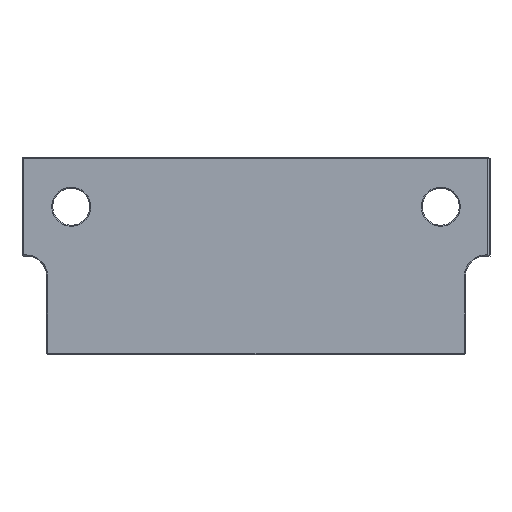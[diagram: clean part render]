
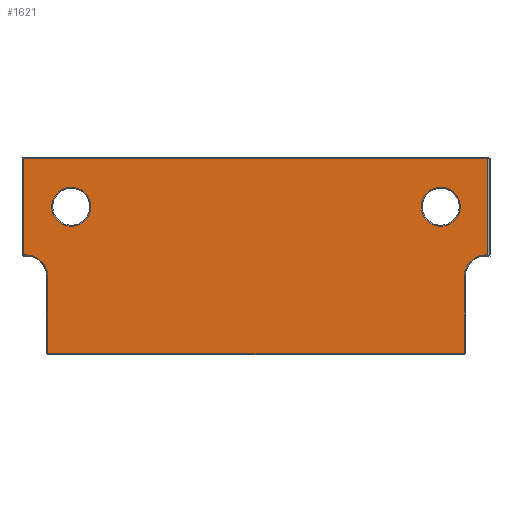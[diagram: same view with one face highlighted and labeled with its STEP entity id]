
A CAD part, front view. The second image highlights one B-rep face of the part: STEP entity #1621.
In plain terms, the highlighted planar face has unit normal (0, -1, 0).
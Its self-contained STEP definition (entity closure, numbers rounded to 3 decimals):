
#28=FACE_BOUND('',#241,.T.);
#29=FACE_BOUND('',#242,.T.);
#34=PLANE('',#1803);
#129=FACE_OUTER_BOUND('',#240,.T.);
#240=EDGE_LOOP('',(#1237,#1238,#1239,#1240,#1241,#1242,#1243,#1244,#1245,
#1246));
#241=EDGE_LOOP('',(#1247));
#242=EDGE_LOOP('',(#1248));
#366=CIRCLE('',#1800,4.75);
#369=CIRCLE('',#1804,5.25);
#370=CIRCLE('',#1805,5.25);
#371=CIRCLE('',#1806,4.75);
#439=LINE('',#2625,#589);
#440=LINE('',#2627,#590);
#441=LINE('',#2629,#591);
#442=LINE('',#2631,#592);
#443=LINE('',#2635,#593);
#444=LINE('',#2637,#594);
#445=LINE('',#2639,#595);
#446=LINE('',#2642,#596);
#589=VECTOR('',#2126,10.);
#590=VECTOR('',#2127,10.);
#591=VECTOR('',#2128,10.);
#592=VECTOR('',#2129,10.);
#593=VECTOR('',#2132,10.);
#594=VECTOR('',#2133,10.);
#595=VECTOR('',#2134,10.);
#596=VECTOR('',#2137,10.);
#757=VERTEX_POINT('',#2615);
#760=VERTEX_POINT('',#2623);
#761=VERTEX_POINT('',#2624);
#762=VERTEX_POINT('',#2626);
#763=VERTEX_POINT('',#2628);
#764=VERTEX_POINT('',#2630);
#765=VERTEX_POINT('',#2632);
#766=VERTEX_POINT('',#2634);
#767=VERTEX_POINT('',#2636);
#768=VERTEX_POINT('',#2638);
#769=VERTEX_POINT('',#2640);
#770=VERTEX_POINT('',#2643);
#928=EDGE_CURVE('',#757,#757,#366,.T.);
#932=EDGE_CURVE('',#760,#761,#439,.T.);
#933=EDGE_CURVE('',#762,#760,#440,.T.);
#934=EDGE_CURVE('',#763,#762,#441,.T.);
#935=EDGE_CURVE('',#764,#763,#442,.T.);
#936=EDGE_CURVE('',#765,#764,#369,.T.);
#937=EDGE_CURVE('',#766,#765,#443,.T.);
#938=EDGE_CURVE('',#767,#766,#444,.T.);
#939=EDGE_CURVE('',#768,#767,#445,.T.);
#940=EDGE_CURVE('',#769,#768,#370,.T.);
#941=EDGE_CURVE('',#761,#769,#446,.T.);
#942=EDGE_CURVE('',#770,#770,#371,.T.);
#1237=ORIENTED_EDGE('',*,*,#932,.F.);
#1238=ORIENTED_EDGE('',*,*,#933,.F.);
#1239=ORIENTED_EDGE('',*,*,#934,.F.);
#1240=ORIENTED_EDGE('',*,*,#935,.F.);
#1241=ORIENTED_EDGE('',*,*,#936,.F.);
#1242=ORIENTED_EDGE('',*,*,#937,.F.);
#1243=ORIENTED_EDGE('',*,*,#938,.F.);
#1244=ORIENTED_EDGE('',*,*,#939,.F.);
#1245=ORIENTED_EDGE('',*,*,#940,.F.);
#1246=ORIENTED_EDGE('',*,*,#941,.F.);
#1247=ORIENTED_EDGE('',*,*,#942,.F.);
#1248=ORIENTED_EDGE('',*,*,#928,.F.);
#1621=ADVANCED_FACE('',(#129,#28,#29),#34,.T.);
#1800=AXIS2_PLACEMENT_3D('',#2616,#2117,#2118);
#1803=AXIS2_PLACEMENT_3D('',#2622,#2124,#2125);
#1804=AXIS2_PLACEMENT_3D('',#2633,#2130,#2131);
#1805=AXIS2_PLACEMENT_3D('',#2641,#2135,#2136);
#1806=AXIS2_PLACEMENT_3D('',#2644,#2138,#2139);
#2117=DIRECTION('center_axis',(0.,-1.,0.));
#2118=DIRECTION('ref_axis',(-1.,0.,0.));
#2124=DIRECTION('center_axis',(0.,-1.,0.));
#2125=DIRECTION('ref_axis',(1.,0.,0.));
#2126=DIRECTION('',(0.,0.,-1.));
#2127=DIRECTION('',(1.,0.,0.));
#2128=DIRECTION('',(0.,0.,1.));
#2129=DIRECTION('',(-1.,0.,0.));
#2130=DIRECTION('center_axis',(0.,-1.,0.));
#2131=DIRECTION('ref_axis',(0.707,0.,0.707));
#2132=DIRECTION('',(0.,0.,1.));
#2133=DIRECTION('',(-1.,0.,0.));
#2134=DIRECTION('',(0.,0.,-1.));
#2135=DIRECTION('center_axis',(0.,-1.,0.));
#2136=DIRECTION('ref_axis',(-0.707,0.,0.707));
#2137=DIRECTION('',(-1.,0.,0.));
#2138=DIRECTION('center_axis',(0.,-1.,0.));
#2139=DIRECTION('ref_axis',(-1.,0.,0.));
#2615=CARTESIAN_POINT('',(-40.25,-56.,36.));
#2616=CARTESIAN_POINT('Origin',(-45.,-56.,36.));
#2622=CARTESIAN_POINT('Origin',(-51.,-56.,0.));
#2623=CARTESIAN_POINT('',(56.5,-56.,47.75));
#2624=CARTESIAN_POINT('',(56.5,-56.,24.25));
#2625=CARTESIAN_POINT('',(56.5,-56.,12.));
#2626=CARTESIAN_POINT('',(-56.75,-56.,47.75));
#2627=CARTESIAN_POINT('',(-25.5,-56.,47.75));
#2628=CARTESIAN_POINT('',(-56.75,-56.,24.25));
#2629=CARTESIAN_POINT('',(-56.75,-56.,12.));
#2630=CARTESIAN_POINT('',(-56.,-56.,24.25));
#2631=CARTESIAN_POINT('',(-51.,-56.,24.25));
#2632=CARTESIAN_POINT('',(-50.75,-56.,19.));
#2633=CARTESIAN_POINT('Origin',(-56.,-56.,19.));
#2634=CARTESIAN_POINT('',(-50.75,-56.,0.25));
#2635=CARTESIAN_POINT('',(-50.75,-56.,0.));
#2636=CARTESIAN_POINT('',(50.75,-56.,0.25));
#2637=CARTESIAN_POINT('',(-25.5,-56.,0.25));
#2638=CARTESIAN_POINT('',(50.75,-56.,19.));
#2639=CARTESIAN_POINT('',(50.75,-56.,0.));
#2640=CARTESIAN_POINT('',(56.,-56.,24.25));
#2641=CARTESIAN_POINT('Origin',(56.,-56.,19.));
#2642=CARTESIAN_POINT('',(3.,-56.,24.25));
#2643=CARTESIAN_POINT('',(49.75,-56.,36.));
#2644=CARTESIAN_POINT('Origin',(45.,-56.,36.));
